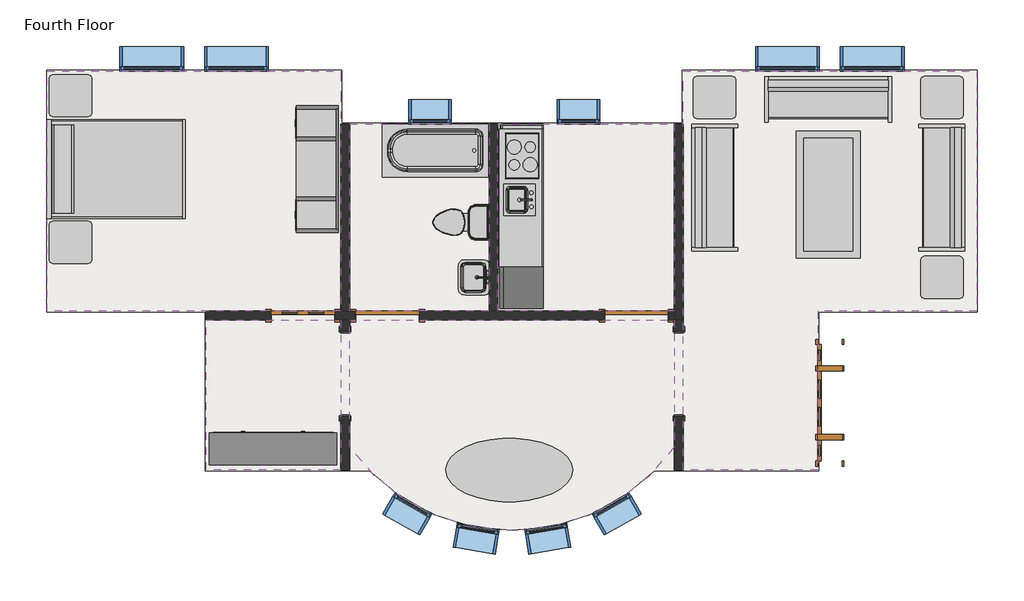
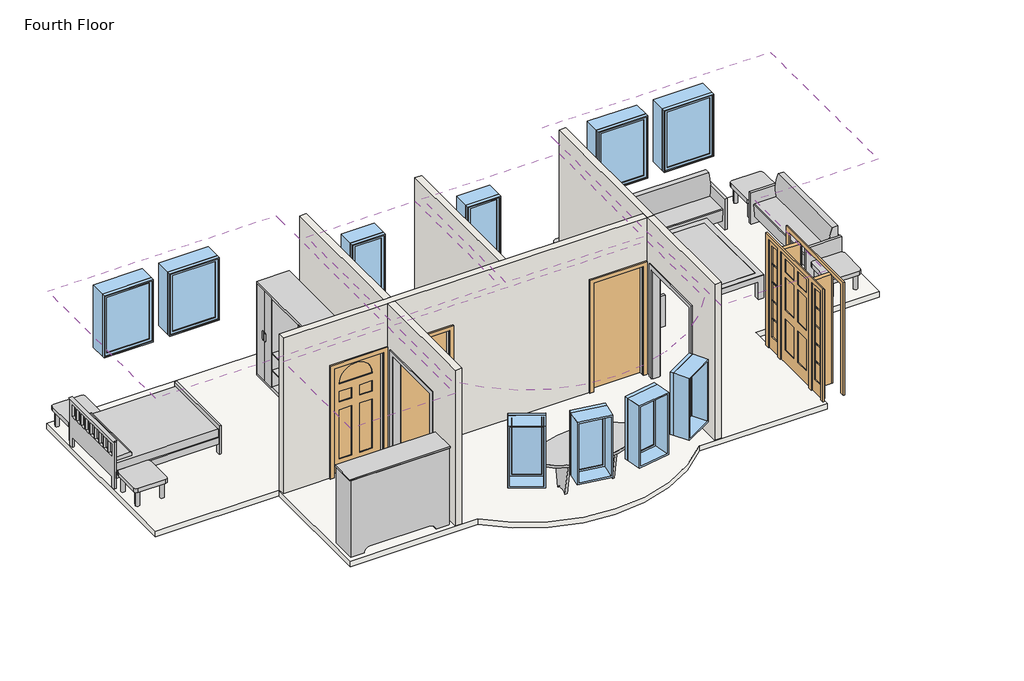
# One storey: 13 furniture elements, 10 windows, 6 coverings, 6 walls, 4 doors, 3 flow terminals, 3 proxies, 1 slab.
"""IFC4 building model written with IfcOpenShell, lengths in millimetres."""

from ifc_helpers import new_model, si_unit, point, frame, frame_2d, origin, place, context, project, spatial, polyline, circle_curve, trimmed, segment, composite_curve, outline, extrude, faceted_brep, transform, mapped, element, save
from components import kitchenette_medium_5_9f73a4de, proxy_f44482cc, door_2e3b4da2, door_a1797ceb, door_a3eb833a, door_dba5aa2e, flow_terminal_0aeb31e3, toilet_domestic_3d_toilet_domestic_3d_f7549cf7, toilet_domestic_3d_toilet_domestic_3d_183bbd19, tub_rectangular_3d_tub_rectangular_3d_7c57b2e9, furniture_096e7f55, furniture_7c473f12, furniture_ddc78764, furniture_4ef38d96, furniture_dde8a40a, furniture_cd93a443, furniture_fe1f7ef6, furniture_3a588284, furniture_1befe2a2, window_60baf983, window_ed80354a, window_15c49d37

model = new_model("IFC4")

# Units and contexts
model_context = context("Model", 3, world=origin())
ifc_project = project(units=[si_unit("LENGTHUNIT", "METRE", prefix="MILLI")], contexts=[model_context])

# Site, building, storey
site = spatial("IfcSite", under=ifc_project)
building = spatial("IfcBuilding", under=site)
storey = spatial("IfcBuildingStorey", under=building, Name="Fourth Floor", Elevation=9144.0)

# Proxies
placement = place(None, origin())
kitchenette_medium_5_shape = kitchenette_medium_5_9f73a4de(model_context)
element("IfcBuildingElementProxy", 1, Name="Kitchenette - Medium : 5'", ObjectType="Kitchenette - Medium : 5'", at=placement, inside=storey, context=model_context, shape_type="MappedRepresentation", body=[
    mapped(kitchenette_medium_5_shape, transform((2117.6576571, 10885.525963, 9144.0), x_axis=(0.0, -1.0, 0.0), y_axis=(1.0, 0.0, 0.0), z_axis=(0.0, 0.0, 1.0))),
])
proxy_shape = proxy_f44482cc(model_context)
element("IfcBuildingElementProxy", 2, Name="Opening-Cased : 48\" x 84\"", ObjectType="Opening-Cased : 48\" x 84\"", at=placement, inside=storey, context=model_context, shape_type="MappedRepresentation", body=[
    mapped(proxy_shape, transform((-732.7404149, 8023.3246014, 9144.0), x_axis=(0.0, -1.0, 0.0), y_axis=(1.0, 0.0, 0.0), z_axis=(0.0, 0.0, 1.0))),
])
element("IfcBuildingElementProxy", 3, Name="Opening-Cased : 48\" x 84\"", ObjectType="Opening-Cased : 48\" x 84\"", at=placement, inside=storey, context=model_context, shape_type="MappedRepresentation", body=[
    mapped(proxy_shape, transform((4064.6845851, 8039.7019148, 9144.0), x_axis=(0.0, 1.0, 0.0), y_axis=(-1.0, 0.0, 0.0), z_axis=(0.0, 0.0, 1.0))),
])

# Coverings
element("IfcCovering", 4, ObjectType="GWB on Mtl. Stud", at=placement, inside=storey, context=model_context, shape_type="SweptSolid", body=[
    extrude(outline(polyline([(-2906.0279149, 8933.2132581), (-5015.8154149, 8933.2132581), (-5015.8154149, 12390.7882581), (-796.2404149, 12390.7882581), (-796.2404149, 11805.0007581), (-796.2404149, 8933.2132581), (-2906.0279149, 8933.2132581)])), frame((0.0, 0.0, 11734.8), z_axis=(0.0, 0.0, 1.0), x_axis=(1.0, 0.0, 0.0)), (0.0, 0.0, 1.0), 107.95),
])
element("IfcCovering", 5, ObjectType="GWB on Mtl. Stud", at=placement, inside=storey, context=model_context, shape_type="SweptSolid", body=[
    extrude(outline(polyline([(-669.2404149, 8933.2132581), (-669.2404149, 11628.7882581), (1337.3595851, 11628.7882581), (1337.3595851, 8933.2132581), (-669.2404149, 8933.2132581)])), frame((0.0, 0.0, 11734.8), z_axis=(0.0, 0.0, 1.0), x_axis=(1.0, 0.0, 0.0)), (0.0, 0.0, 1.0), 107.95),
])
element("IfcCovering", 6, ObjectType="GWB on Mtl. Stud", at=placement, inside=storey, context=model_context, shape_type="SweptSolid", body=[
    extrude(outline(polyline([(1464.3595851, 11628.7882581), (4001.1845851, 11628.7882581), (4001.1845851, 8933.2132581), (1464.3595851, 8933.2132581), (1464.3595851, 11628.7882581)])), frame((0.0, 0.0, 11734.8), z_axis=(0.0, 0.0, 1.0), x_axis=(1.0, 0.0, 0.0)), (0.0, 0.0, 1.0), 107.95),
])
element("IfcCovering", 7, ObjectType="GWB on Mtl. Stud", at=placement, inside=storey, context=model_context, shape_type="SweptSolid", body=[
    extrude(outline(polyline([(8347.7595851, 12390.7882581), (8347.7595851, 8933.2132581), (6061.7595851, 8933.2132581), (6061.7595851, 6647.2132581), (4128.1845851, 6647.2132581), (4128.1845851, 8869.7132581), (4128.1845851, 11805.0007581), (4128.1845851, 12390.7882581), (8347.7595851, 12390.7882581)])), frame((0.0, 0.0, 11734.8), z_axis=(0.0, 0.0, 1.0), x_axis=(1.0, 0.0, 0.0)), (0.0, 0.0, 1.0), 107.95),
])
element("IfcCovering", 8, ObjectType="GWB on Mtl. Stud", at=placement, inside=storey, context=model_context, shape_type="SweptSolid", body=[
    extrude(outline(composite_curve([segment(trimmed(circle_curve(frame_2d((1665.9720851, 8647.7081431)), 2871.7875), [point((4001.1845851, 6976.19804))], [point((-669.2404149, 6976.19804))], False, "CARTESIAN"), True, "CONTINUOUS"), segment(polyline([(-669.2404149, 6976.19804), (-669.2404149, 8806.2132581), (4001.1845851, 8806.2132581), (4001.1845851, 6976.19804)]), True, "CONTINUOUS")], self_intersect=False)), frame((0.0, 0.0, 11734.8), z_axis=(0.0, 0.0, 1.0), x_axis=(1.0, 0.0, 0.0)), (0.0, 0.0, 1.0), 107.95),
])
element("IfcCovering", 9, ObjectType="GWB on Mtl. Stud", at=placement, inside=storey, context=model_context, shape_type="SweptSolid", body=[
    extrude(outline(polyline([(-796.2404149, 6647.2132581), (-2729.8154149, 6647.2132581), (-2729.8154149, 8806.2132581), (-796.2404149, 8806.2132581), (-796.2404149, 6647.2132581)])), frame((0.0, 0.0, 11734.8), z_axis=(0.0, 0.0, 1.0), x_axis=(1.0, 0.0, 0.0)), (0.0, 0.0, 1.0), 107.95),
])

# Doors
door_shape = door_2e3b4da2(model_context)
element("IfcDoor", 10, ObjectType="Single-Decorative 2 : 36\" x 84\"", at=placement, inside=storey, context=model_context, shape_type="MappedRepresentation", body=[
    mapped(door_shape, transform((-1342.3404149, 8869.7132581, 9144.0), x_axis=(1.0, 0.0, 0.0), y_axis=(0.0, 1.0, 0.0), z_axis=(0.0, 0.0, 1.0))),
])
door_2_shape = door_a1797ceb(model_context)
element("IfcDoor", 11, ObjectType="Single-Flush : 36\" x 84\"", at=placement, inside=storey, context=model_context, shape_type="MappedRepresentation", body=[
    mapped(door_2_shape, transform((3455.0845851, 8869.7132581, 9144.0), x_axis=(1.0, 0.0, 0.0), y_axis=(0.0, 1.0, 0.0), z_axis=(0.0, 0.0, 1.0))),
])
door_3_shape = door_a3eb833a(model_context)
element("IfcDoor", 12, ObjectType="Single-Flush : 36\" x 84\"", at=placement, inside=storey, context=model_context, shape_type="MappedRepresentation", body=[
    mapped(door_3_shape, transform((-123.1404149, 8869.7132581, 9144.0), x_axis=(-1.0, 0.0, 0.0), y_axis=(0.0, -1.0, 0.0), z_axis=(0.0, 0.0, 1.0))),
])
door_4_shape = door_dba5aa2e(model_context)
element("IfcDoor", 13, ObjectType="Single-Raised Panel with Sidelights : 36\" x 84\"", at=placement, inside=storey, context=model_context, shape_type="MappedRepresentation", body=[
    mapped(door_4_shape, transform((6237.9720851, 7614.0007581, 9144.0), x_axis=(0.0, -1.0, 0.0), y_axis=(1.0, 0.0, 0.0), z_axis=(0.0, 0.0, 1.0))),
])

# Flow terminals
flow_terminal_shape = flow_terminal_0aeb31e3(model_context)
element("IfcFlowTerminal", 14, ObjectType="Sink Vanity-Square : 24\" x 19\"", at=placement, inside=storey, context=model_context, shape_type="MappedRepresentation", body=[
    mapped(flow_terminal_shape, transform((1157.214184, 9434.4995407, 9144.0), x_axis=(0.0, -1.0, 0.0), y_axis=(1.0, 0.0, 0.0), z_axis=(0.0, 0.0, 1.0))),
])
toilet_domestic_3d_toilet_domestic_3d_shape = toilet_domestic_3d_toilet_domestic_3d_f7549cf7(model_context)
toilet_domestic_3d_toilet_domestic_3d_2_shape = toilet_domestic_3d_toilet_domestic_3d_183bbd19(model_context)
element("IfcFlowTerminal", 15, ObjectType="Toilet-Domestic-3D : Toilet-Domestic-3D", at=placement, inside=storey, context=model_context, shape_type="MappedRepresentation", body=[
    mapped(toilet_domestic_3d_toilet_domestic_3d_shape, transform((831.6983718, 10214.097778, 9144.0), x_axis=(0.0, -1.0000000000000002, 0.0), y_axis=(1.0000000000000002, 0.0, 0.0), z_axis=(0.0, 0.0, 1.0))),
    mapped(toilet_domestic_3d_toilet_domestic_3d_2_shape, transform((831.6983718, 10214.097778, 9144.0), x_axis=(0.0, -1.0000000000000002, 0.0), y_axis=(1.0000000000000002, 0.0, 0.0), z_axis=(0.0, 0.0, 1.0))),
])
tub_rectangular_3d_tub_rectangular_3d_shape = tub_rectangular_3d_tub_rectangular_3d_7c57b2e9(model_context)
element("IfcFlowTerminal", 16, ObjectType="Tub-Rectangular-3D : Tub-Rectangular-3D", at=placement, inside=storey, context=model_context, shape_type="MappedRepresentation", body=[
    mapped(tub_rectangular_3d_tub_rectangular_3d_shape, transform((214.0566164, 11805.0007581, 9144.0), x_axis=(-0.9999999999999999, 0.0, 0.0), y_axis=(0.0, -0.9999999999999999, 0.0), z_axis=(0.0, 0.0, 1.0))),
])

# Furniture
furniture_shape = furniture_096e7f55(model_context)
element("IfcFurniture", 17, ObjectType="Bed-Shaker : Double 56\" x 78\"", at=placement, inside=storey, context=model_context, shape_type="MappedRepresentation", body=[
    mapped(furniture_shape, transform((-5013.1126898, 10998.5900785, 9144.0), x_axis=(0.0, 1.0, 0.0), y_axis=(-1.0, 0.0, 0.0), z_axis=(0.0, 0.0, 1.0))),
])
furniture_2_shape = furniture_7c473f12(model_context)
element("IfcFurniture", 18, ObjectType="Dresser : 72\" x 60\" x 18\"", at=placement, inside=storey, context=model_context, shape_type="MappedRepresentation", body=[
    mapped(furniture_2_shape, transform((-2039.8604591, 6588.850304, 9144.0), x_axis=(-1.0, 0.0, 0.0), y_axis=(0.0, -1.0, 0.0), z_axis=(0.0, 0.0, 1.0))),
])
furniture_3_shape = furniture_ddc78764(model_context)
element("IfcFurniture", 19, ObjectType="Entertainment Center : 72\" x 72\" x 24\"", at=placement, inside=storey, context=model_context, shape_type="MappedRepresentation", body=[
    mapped(furniture_3_shape, transform((-733.8851408, 10979.5400785, 9144.0), x_axis=(0.0, -1.0, 0.0), y_axis=(1.0, 0.0, 0.0), z_axis=(0.0, 0.0, 1.0))),
])
furniture_4_shape = furniture_4ef38d96(model_context)
element("IfcFurniture", 20, ObjectType="Sofa : 72\"", at=placement, inside=storey, context=model_context, shape_type="MappedRepresentation", body=[
    mapped(furniture_4_shape, transform((6143.7890933, 11835.0591598, 9144.0), x_axis=(1.0, 0.0, 0.0), y_axis=(0.0, 1.0, 0.0), z_axis=(0.0, 0.0, 1.0))),
])
element("IfcFurniture", 21, ObjectType="Sofa : 72\"", at=placement, inside=storey, context=model_context, shape_type="MappedRepresentation", body=[
    mapped(furniture_4_shape, transform((4726.0692419, 10644.2919955, 9144.0), x_axis=(0.0, 1.0, 0.0), y_axis=(-1.0, 0.0, 0.0), z_axis=(0.0, 0.0, 1.0))),
])
furniture_5_shape = furniture_dde8a40a(model_context)
element("IfcFurniture", 22, ObjectType="Sofa : 72\"", at=placement, inside=storey, context=model_context, shape_type="MappedRepresentation", body=[
    mapped(furniture_5_shape, transform((7702.2499284, 10644.2919955, 9144.0), x_axis=(0.0, 1.0, 0.0), y_axis=(-1.0, 0.0, 0.0), z_axis=(0.0, 0.0, 1.0))),
])
furniture_6_shape = furniture_cd93a443(model_context)
element("IfcFurniture", 23, ObjectType="Table-Coffee : 36\" x 72\" x 18\"", at=placement, inside=storey, context=model_context, shape_type="MappedRepresentation", body=[
    mapped(furniture_6_shape, transform((6118.9485073, 10627.8790248, 9144.0), x_axis=(0.0, -1.0, 0.0), y_axis=(1.0, 0.0, 0.0), z_axis=(0.0, 0.0, 1.0))),
])
furniture_7_shape = furniture_fe1f7ef6(model_context)
element("IfcFurniture", 24, ObjectType="Table-Ellipse : 72\" x 36\"", at=placement, inside=storey, context=model_context, shape_type="MappedRepresentation", body=[
    mapped(furniture_7_shape, transform((1626.2845851, 6647.2132581, 9144.0), x_axis=(1.0, 0.0, 0.0), y_axis=(0.0, 1.0, 0.0), z_axis=(0.0, 0.0, 1.0))),
])
furniture_8_shape = furniture_3a588284(model_context)
element("IfcFurniture", 25, ObjectType="Table-End : 24\" x 24\"", at=placement, inside=storey, context=model_context, shape_type="MappedRepresentation", body=[
    mapped(furniture_8_shape, transform((4271.3815133, 11857.6624873, 9144.0), x_axis=(1.0, 0.0, 0.0), y_axis=(0.0, 1.0, 0.0), z_axis=(0.0, 0.0, 1.0))),
])
element("IfcFurniture", 26, ObjectType="Table-End : 24\" x 24\"", at=placement, inside=storey, context=model_context, shape_type="MappedRepresentation", body=[
    mapped(furniture_8_shape, transform((-4994.1490451, 11882.7882581, 9144.0), x_axis=(1.0, 0.0, 0.0), y_axis=(0.0, 1.0, 0.0), z_axis=(0.0, 0.0, 1.0))),
])
element("IfcFurniture", 27, ObjectType="Table-End : 24\" x 24\"", at=placement, inside=storey, context=model_context, shape_type="MappedRepresentation", body=[
    mapped(furniture_8_shape, transform((8156.937657, 9571.6624873, 9144.0), x_axis=(-1.0, 0.0, 0.0), y_axis=(0.0, -1.0, 0.0), z_axis=(0.0, 0.0, 1.0))),
])
furniture_9_shape = furniture_1befe2a2(model_context)
element("IfcFurniture", 28, ObjectType="Table-End : 24\" x 24\"", at=placement, inside=storey, context=model_context, shape_type="MappedRepresentation", body=[
    mapped(furniture_9_shape, transform((-4994.1490451, 10076.2918989, 9144.0), x_axis=(1.0, 0.0, 0.0), y_axis=(0.0, 1.0, 0.0), z_axis=(0.0, 0.0, 1.0))),
])
element("IfcFurniture", 29, ObjectType="Table-End : 24\" x 24\"", at=placement, inside=storey, context=model_context, shape_type="MappedRepresentation", body=[
    mapped(furniture_9_shape, transform((8156.937657, 11857.6624873, 9144.0), x_axis=(-1.0, 0.0, 0.0), y_axis=(0.0, -1.0, 0.0), z_axis=(0.0, 0.0, 1.0))),
])

# Slab
element("IfcSlab", 30, ObjectType="LW Concrete on Metal Deck", at=placement, inside=storey, context=model_context, shape_type="SweptSolid", body=[
    extrude(outline(composite_curve([segment(polyline([(-783.5404149, 12403.4882581), (-783.5404149, 11641.4882581), (4115.4845851, 11641.4882581), (4115.4845851, 12403.4882581), (8360.4595851, 12403.4882581), (8360.4595851, 8920.5132581), (6074.4595851, 8920.5132581), (6074.4595851, 6634.5132581), (3713.949087, 6634.5132581)]), True, "CONTINUOUS"), segment(trimmed(circle_curve(frame_2d((1665.9720851, 8647.7081431)), 2871.7875), [point((3713.949087, 6634.5132581))], [point((-382.0049167, 6634.5132581))], False, "CARTESIAN"), True, "CONTINUOUS"), segment(polyline([(-382.0049167, 6634.5132581), (-2742.5154149, 6634.5132581), (-2742.5154149, 8920.5132581), (-5028.5154149, 8920.5132581), (-5028.5154149, 12403.4882581), (-783.5404149, 12403.4882581)]), True, "CONTINUOUS")], self_intersect=False)), frame((0.0, 0.0, 9039.225), z_axis=(0.0, 0.0, 1.0), x_axis=(1.0, 0.0, 0.0)), (0.0, 0.0, 1.0), 104.775),
])

# Walls
element("IfcWall", 31, ObjectType="Interior - 5\" Partition (2-hr)", at=placement, inside=storey, context=model_context, shape_type="Brep", body=[
    faceted_brep([(4001.1845851, 11628.7882581, 9144.0), (4001.1845851, 8933.2132581, 9144.0), (4001.1845851, 8806.2132581, 9144.0), (4001.1845851, 8806.2132581, 12192.0), (4001.1845851, 8933.2132581, 12192.0), (4001.1845851, 11628.7882581, 12192.0), (4128.1845851, 11628.7882581, 9144.0), (4128.1845851, 11628.7882581, 12192.0), (4128.1845851, 8806.2132581, 12192.0), (4128.1845851, 8806.2132581, 9144.0)], [[[0, 1, 2, 3, 4, 5]], [[6, 7, 8, 9]], [[2, 1, 0, 6, 9]], [[5, 4, 3, 8, 7]], [[3, 2, 9, 8]], [[0, 5, 7, 6]]]),
])
element("IfcWall", 32, ObjectType="Interior - 5\" Partition (2-hr)", at=placement, inside=storey, context=model_context, shape_type="Brep", body=[
    faceted_brep([(-885.1404149, 8806.2132581, 11277.6), (-885.1404149, 8806.2132581, 9144.0), (-796.2404149, 8806.2132581, 9144.0), (-669.2404149, 8806.2132581, 9144.0), (-580.3404149, 8806.2132581, 9144.0), (-580.3404149, 8806.2132581, 11277.6), (334.0595851, 8806.2132581, 11277.6), (334.0595851, 8806.2132581, 9144.0), (2997.8845851, 8806.2132581, 9144.0), (2997.8845851, 8806.2132581, 11277.6), (3912.2845851, 8806.2132581, 11277.6), (3912.2845851, 8806.2132581, 9144.0), (4001.1845851, 8806.2132581, 9144.0), (4001.1845851, 8806.2132581, 12192.0), (-669.2404149, 8806.2132581, 12192.0), (-796.2404149, 8806.2132581, 12192.0), (-2729.8154149, 8806.2132581, 12192.0), (-2729.8154149, 8806.2132581, 9144.0), (-1799.5404149, 8806.2132581, 9144.0), (-1799.5404149, 8806.2132581, 11277.6), (-580.3404149, 8933.2132581, 9144.0), (-669.2404149, 8933.2132581, 9144.0), (-796.2404149, 8933.2132581, 9144.0), (-885.1404149, 8933.2132581, 9144.0), (-885.1404149, 8933.2132581, 11277.6), (-1799.5404149, 8933.2132581, 11277.6), (-1799.5404149, 8933.2132581, 9144.0), (-2729.8154149, 8933.2132581, 9144.0), (-2729.8154149, 8933.2132581, 12192.0), (-796.2404149, 8933.2132581, 12192.0), (-669.2404149, 8933.2132581, 12192.0), (1337.3595851, 8933.2132581, 12192.0), (1464.3595851, 8933.2132581, 12192.0), (4001.1845851, 8933.2132581, 12192.0), (4001.1845851, 8933.2132581, 9144.0), (3912.2845851, 8933.2132581, 9144.0), (3912.2845851, 8933.2132581, 11277.6), (2997.8845851, 8933.2132581, 11277.6), (2997.8845851, 8933.2132581, 9144.0), (1464.3595851, 8933.2132581, 9144.0), (1337.3595851, 8933.2132581, 9144.0), (334.0595851, 8933.2132581, 9144.0), (334.0595851, 8933.2132581, 11277.6), (-580.3404149, 8933.2132581, 11277.6)], [[[0, 1, 2, 3, 4, 5, 6, 7, 8, 9, 10, 11, 12, 13, 14, 15, 16, 17, 18, 19]], [[20, 21, 22, 23, 24, 25, 26, 27, 28, 29, 30, 31, 32, 33, 34, 35, 36, 37, 38, 39, 40, 41, 42, 43]], [[12, 11, 35, 34]], [[4, 3, 2, 1, 23, 22, 21, 20]], [[41, 40, 39, 38, 8, 7]], [[18, 17, 27, 26]], [[16, 15, 14, 13, 33, 32, 31, 30, 29, 28]], [[13, 12, 34, 33]], [[17, 16, 28, 27]], [[36, 35, 11, 10]], [[37, 36, 10, 9]], [[38, 37, 9, 8]], [[5, 4, 20, 43]], [[6, 5, 43, 42]], [[7, 6, 42, 41]], [[24, 23, 1, 0]], [[25, 24, 0, 19]], [[26, 25, 19, 18]]]),
])
element("IfcWall", 33, ObjectType="Interior - 5\" Partition (2-hr)", at=placement, inside=storey, context=model_context, shape_type="SweptSolid", body=[
    extrude(outline(polyline([(-796.2404149, 8933.2132581), (-796.2404149, 11628.7882581), (-669.2404149, 11628.7882581), (-669.2404149, 8933.2132581), (-796.2404149, 8933.2132581)])), frame((0.0, 0.0, 9144.0), z_axis=(0.0, 0.0, 1.0), x_axis=(1.0, 0.0, 0.0)), (0.0, 0.0, 1.0), 3048.0),
])
element("IfcWall", 34, ObjectType="Interior - 5\" Partition (2-hr)", at=placement, inside=storey, context=model_context, shape_type="SweptSolid", body=[
    extrude(outline(polyline([(1464.3595851, 11628.7882581), (1464.3595851, 8933.2132581), (1337.3595851, 8933.2132581), (1337.3595851, 11628.7882581), (1464.3595851, 11628.7882581)])), frame((0.0, 0.0, 9144.0), z_axis=(0.0, 0.0, 1.0), x_axis=(1.0, 0.0, 0.0)), (0.0, 0.0, 1.0), 3048.0),
])
element("IfcWall", 35, ObjectType="Interior - 5\" Partition (2-hr)", at=placement, inside=storey, context=model_context, shape_type="SweptSolid", body=[
    extrude(outline(polyline([(7421.9132581, 11277.6), (7421.9132581, 9144.0), (6647.2132581, 9144.0), (6647.2132581, 12192.0), (8806.2132581, 12192.0), (8806.2132581, 9144.0), (8641.1132581, 9144.0), (8641.1132581, 11277.6), (7421.9132581, 11277.6)])), frame((-796.2404149, 0.0, 0.0), z_axis=(1.0, 0.0, 0.0), x_axis=(0.0, 1.0, 0.0)), (0.0, 0.0, 1.0), 127.0),
])
element("IfcWall", 36, ObjectType="Interior - 5\" Partition (2-hr)", at=placement, inside=storey, context=model_context, shape_type="SweptSolid", body=[
    extrude(outline(polyline([(8806.2132581, 9144.0), (8641.1132581, 9144.0), (8641.1132581, 11277.6), (7421.9132581, 11277.6), (7421.9132581, 9144.0), (6647.2132581, 9144.0), (6647.2132581, 12192.0), (8806.2132581, 12192.0), (8806.2132581, 9144.0)])), frame((4001.1845851, 0.0, 0.0), z_axis=(1.0, 0.0, 0.0), x_axis=(0.0, 1.0, 0.0)), (0.0, 0.0, 1.0), 127.0),
])

# Windows
window_shape = window_60baf983(model_context)
element("IfcWindow", 37, ObjectType="Fixed : 24\" x 48\"", at=placement, inside=storey, context=model_context, shape_type="MappedRepresentation", body=[
    mapped(window_shape, transform((2581.9595851, 11805.0007581, 9144.0), x_axis=(-0.9999999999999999, 0.0, 0.0), y_axis=(0.0, -0.9999999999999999, 0.0), z_axis=(0.0, 0.0, 1.0))),
])
element("IfcWindow", 38, ObjectType="Fixed : 24\" x 48\"", at=placement, inside=storey, context=model_context, shape_type="MappedRepresentation", body=[
    mapped(window_shape, transform((448.3595851, 11805.0007581, 9144.0), x_axis=(-0.9999999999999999, 0.0, 0.0), y_axis=(0.0, -0.9999999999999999, 0.0), z_axis=(0.0, 0.0, 1.0))),
])
element("IfcWindow", 39, ObjectType="Fixed : 24\" x 48\"", at=placement, inside=storey, context=model_context, shape_type="MappedRepresentation", body=[
    mapped(window_shape, transform((194.709276, 5996.5722256, 9144.0), x_axis=(0.8682133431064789, -0.4961910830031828, 0.0), y_axis=(0.4961910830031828, 0.8682133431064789, 0.0), z_axis=(0.0, 0.0, 1.0))),
])
element("IfcWindow", 40, ObjectType="Fixed : 24\" x 48\"", at=placement, inside=storey, context=model_context, shape_type="MappedRepresentation", body=[
    mapped(window_shape, transform((1188.928449, 5653.4527639, 9144.0), x_axis=(0.9854902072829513, -0.1697322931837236, 0.0), y_axis=(0.1697322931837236, 0.9854902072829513, 0.0), z_axis=(0.0, 0.0, 1.0))),
])
window_2_shape = window_ed80354a(model_context)
element("IfcWindow", 41, ObjectType="Fixed : 24\" x 48\"", at=placement, inside=storey, context=model_context, shape_type="MappedRepresentation", body=[
    mapped(window_2_shape, transform((3137.2348943, 5996.5722256, 9144.0), x_axis=(-0.8682133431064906, -0.49619108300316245, 0.0), y_axis=(0.49619108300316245, -0.8682133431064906, 0.0), z_axis=(0.0, 0.0, 1.0))),
])
element("IfcWindow", 42, ObjectType="Fixed : 24\" x 48\"", at=placement, inside=storey, context=model_context, shape_type="MappedRepresentation", body=[
    mapped(window_2_shape, transform((2143.0157213, 5653.4527639, 9144.0), x_axis=(-0.9854902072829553, -0.16973229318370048, 0.0), y_axis=(0.16973229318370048, -0.9854902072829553, 0.0), z_axis=(0.0, 0.0, 1.0))),
])
window_3_shape = window_15c49d37(model_context)
element("IfcWindow", 43, ObjectType="Fixed : 36\" x 48\"", at=placement, inside=storey, context=model_context, shape_type="MappedRepresentation", body=[
    mapped(window_3_shape, transform((-3553.7279149, 12567.0007581, 9144.0), x_axis=(-1.0, 0.0, 0.0), y_axis=(0.0, -1.0, 0.0), z_axis=(0.0, 0.0, 1.0))),
])
element("IfcWindow", 44, ObjectType="Fixed : 36\" x 48\"", at=placement, inside=storey, context=model_context, shape_type="MappedRepresentation", body=[
    mapped(window_3_shape, transform((-2334.5279149, 12567.0007581, 9144.0), x_axis=(-1.0, 0.0, 0.0), y_axis=(0.0, -1.0, 0.0), z_axis=(0.0, 0.0, 1.0))),
])
element("IfcWindow", 45, ObjectType="Fixed : 36\" x 48\"", at=placement, inside=storey, context=model_context, shape_type="MappedRepresentation", body=[
    mapped(window_3_shape, transform((6809.4720851, 12567.0007581, 9144.0), x_axis=(-1.0, 0.0, 0.0), y_axis=(0.0, -1.0, 0.0), z_axis=(0.0, 0.0, 1.0))),
])
element("IfcWindow", 46, ObjectType="Fixed : 36\" x 48\"", at=placement, inside=storey, context=model_context, shape_type="MappedRepresentation", body=[
    mapped(window_3_shape, transform((5590.2720851, 12567.0007581, 9144.0), x_axis=(-1.0, 0.0, 0.0), y_axis=(0.0, -1.0, 0.0), z_axis=(0.0, 0.0, 1.0))),
])

save(model, "model.ifc")
